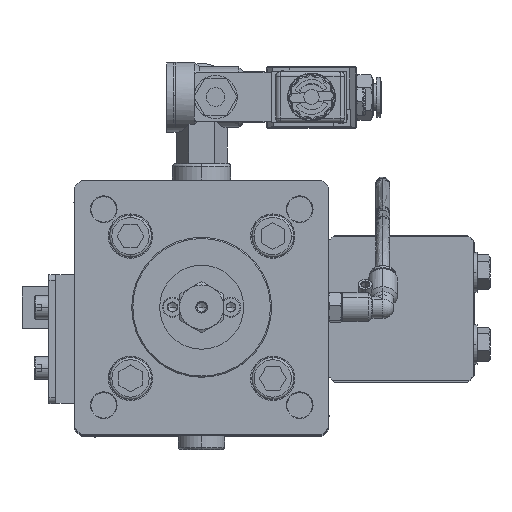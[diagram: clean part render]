
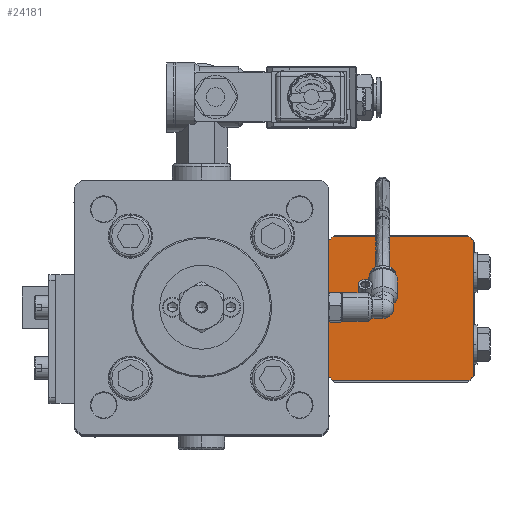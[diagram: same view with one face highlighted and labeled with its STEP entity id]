
A CAD part, top view. The second image highlights one B-rep face of the part: STEP entity #24181.
In plain terms, the highlighted planar face has unit normal (0, 0, 1) as drawn and (0, -1, 0) by its records, which use the part's own axes.
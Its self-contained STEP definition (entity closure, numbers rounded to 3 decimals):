
#4363 = DIRECTION ( 'NONE',  ( 0., 0., 1. ) ) ;
#5255 = CIRCLE ( 'NONE', #69875, 42.5 ) ;
#6029 = AXIS2_PLACEMENT_3D ( 'NONE', #6719, #13259, #15092 ) ;
#6148 = CARTESIAN_POINT ( 'NONE',  ( -31., 0., -29.073 ) ) ;
#6719 = CARTESIAN_POINT ( 'NONE',  ( 0., 0., 0. ) ) ;
#8303 = LINE ( 'NONE', #55741, #50008 ) ;
#10340 = LINE ( 'NONE', #74072, #74061 ) ;
#10966 = CARTESIAN_POINT ( 'NONE',  ( 0., 0., 0. ) ) ;
#13259 = DIRECTION ( 'NONE',  ( 0., 1., 0. ) ) ;
#14232 = DIRECTION ( 'NONE',  ( 0., -1., 0. ) ) ;
#14244 = DIRECTION ( 'NONE',  ( 0., 0., 1. ) ) ;
#15092 = DIRECTION ( 'NONE',  ( 0., 0., 1. ) ) ;
#19413 = DIRECTION ( 'NONE',  ( 0., 0., 1. ) ) ;
#24181 = ADVANCED_FACE ( 'NONE', ( #59286 ), #56573, .F. ) ;
#32865 = CARTESIAN_POINT ( 'NONE',  ( 0., 0., 0. ) ) ;
#33321 = VERTEX_POINT ( 'NONE', #82667 ) ;
#34360 = AXIS2_PLACEMENT_3D ( 'NONE', #32865, #90903, #41214 ) ;
#35770 = VECTOR ( 'NONE', #43550, 1000. ) ;
#37252 = EDGE_CURVE ( 'NONE', #61751, #97935, #10340, .T. ) ;
#38372 = LINE ( 'NONE', #76246, #35770 ) ;
#40659 = EDGE_CURVE ( 'NONE', #80032, #62217, #5255, .T. ) ;
#40700 = ORIENTED_EDGE ( 'NONE', *, *, #97325, .T. ) ;
#41214 = DIRECTION ( 'NONE',  ( 0., 0., 1. ) ) ;
#42659 = VERTEX_POINT ( 'NONE', #60880 ) ;
#43550 = DIRECTION ( 'NONE',  ( 1., 0., 0. ) ) ;
#43659 = CARTESIAN_POINT ( 'NONE',  ( -31., 0., 29.073 ) ) ;
#43870 = AXIS2_PLACEMENT_3D ( 'NONE', #10966, #69165, #19413 ) ;
#47613 = DIRECTION ( 'NONE',  ( -1., 0., 0. ) ) ;
#47621 = ORIENTED_EDGE ( 'NONE', *, *, #40659, .T. ) ;
#50008 = VECTOR ( 'NONE', #14244, 1000. ) ;
#54259 = DIRECTION ( 'NONE',  ( 0., -1., 0. ) ) ;
#55741 = CARTESIAN_POINT ( 'NONE',  ( -31., 0., -31. ) ) ;
#56573 = PLANE ( 'NONE',  #6029 ) ;
#57385 = DIRECTION ( 'NONE',  ( 0., 0., -1. ) ) ;
#59286 = FACE_OUTER_BOUND ( 'NONE', #105639, .T. ) ;
#59633 = ORIENTED_EDGE ( 'NONE', *, *, #77293, .F. ) ;
#60162 = ORIENTED_EDGE ( 'NONE', *, *, #85454, .T. ) ;
#60880 = CARTESIAN_POINT ( 'NONE',  ( 29.073, 0., -31. ) ) ;
#61606 = CARTESIAN_POINT ( 'NONE',  ( 31., 0., 29.073 ) ) ;
#61751 = VERTEX_POINT ( 'NONE', #61606 ) ;
#62217 = VERTEX_POINT ( 'NONE', #43659 ) ;
#64098 = CARTESIAN_POINT ( 'NONE',  ( 0., 0., 0. ) ) ;
#64587 = VECTOR ( 'NONE', #47613, 1000. ) ;
#65140 = EDGE_CURVE ( 'NONE', #61751, #77578, #71324, .T. ) ;
#67407 = EDGE_CURVE ( 'NONE', #42659, #33321, #106068, .T. ) ;
#69115 = CARTESIAN_POINT ( 'NONE',  ( -29.073, 0., 31. ) ) ;
#69165 = DIRECTION ( 'NONE',  ( 0., -1., 0. ) ) ;
#69875 = AXIS2_PLACEMENT_3D ( 'NONE', #64098, #14232, #72389 ) ;
#71324 = CIRCLE ( 'NONE', #43870, 42.5 ) ;
#72389 = DIRECTION ( 'NONE',  ( 0., 0., 1. ) ) ;
#74061 = VECTOR ( 'NONE', #57385, 1000. ) ;
#74072 = CARTESIAN_POINT ( 'NONE',  ( 31., 0., -31. ) ) ;
#74118 = CARTESIAN_POINT ( 'NONE',  ( 31., 0., -29.073 ) ) ;
#76246 = CARTESIAN_POINT ( 'NONE',  ( -31., 0., 31. ) ) ;
#77293 = EDGE_CURVE ( 'NONE', #80032, #77578, #38372, .T. ) ;
#77578 = VERTEX_POINT ( 'NONE', #96442 ) ;
#78316 = CIRCLE ( 'NONE', #34360, 42.5 ) ;
#80032 = VERTEX_POINT ( 'NONE', #69115 ) ;
#80734 = ORIENTED_EDGE ( 'NONE', *, *, #65140, .T. ) ;
#82667 = CARTESIAN_POINT ( 'NONE',  ( -29.073, 0., -31. ) ) ;
#83608 = AXIS2_PLACEMENT_3D ( 'NONE', #103952, #54259, #4363 ) ;
#85454 = EDGE_CURVE ( 'NONE', #42659, #97935, #92448, .T. ) ;
#86512 = ORIENTED_EDGE ( 'NONE', *, *, #67407, .F. ) ;
#89954 = VERTEX_POINT ( 'NONE', #6148 ) ;
#90903 = DIRECTION ( 'NONE',  ( 0., -1., 0. ) ) ;
#91598 = ORIENTED_EDGE ( 'NONE', *, *, #37252, .F. ) ;
#92448 = CIRCLE ( 'NONE', #83608, 42.5 ) ;
#96442 = CARTESIAN_POINT ( 'NONE',  ( 29.073, 0., 31. ) ) ;
#97325 = EDGE_CURVE ( 'NONE', #89954, #33321, #78316, .T. ) ;
#97935 = VERTEX_POINT ( 'NONE', #74118 ) ;
#102917 = EDGE_CURVE ( 'NONE', #89954, #62217, #8303, .T. ) ;
#103578 = ORIENTED_EDGE ( 'NONE', *, *, #102917, .F. ) ;
#103952 = CARTESIAN_POINT ( 'NONE',  ( 0., 0., 0. ) ) ;
#105639 = EDGE_LOOP ( 'NONE', ( #47621, #103578, #40700, #86512, #60162, #91598, #80734, #59633 ) ) ;
#105655 = CARTESIAN_POINT ( 'NONE',  ( -31., 0., -31. ) ) ;
#106068 = LINE ( 'NONE', #105655, #64587 ) ;
